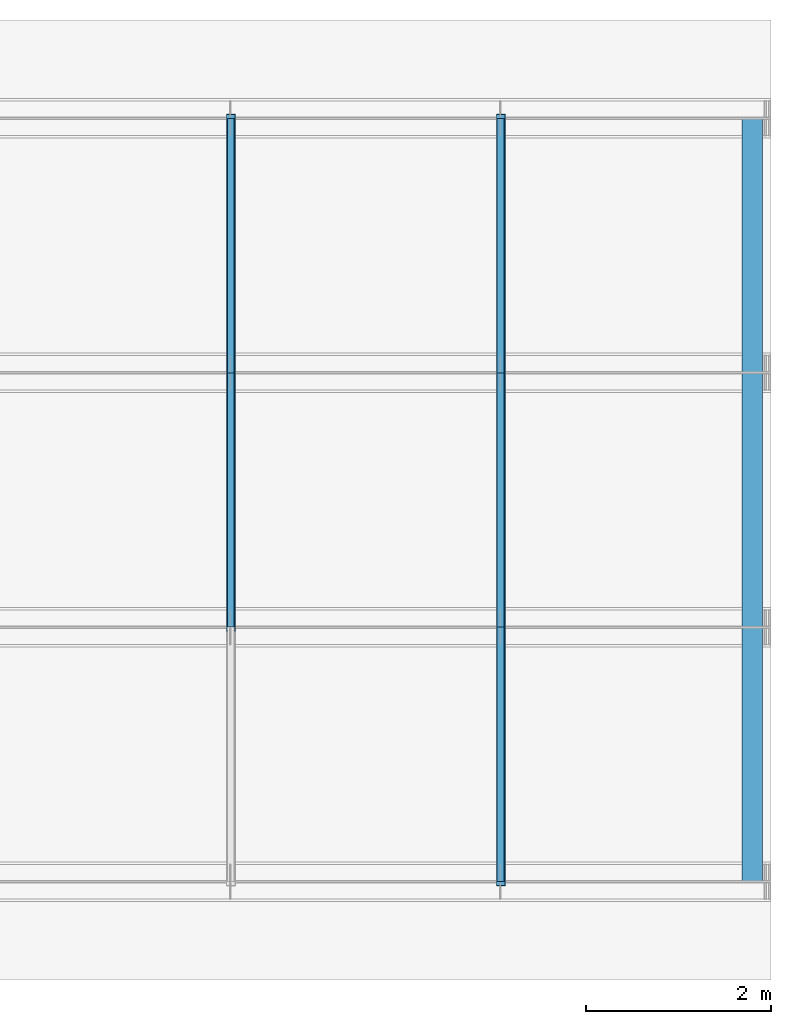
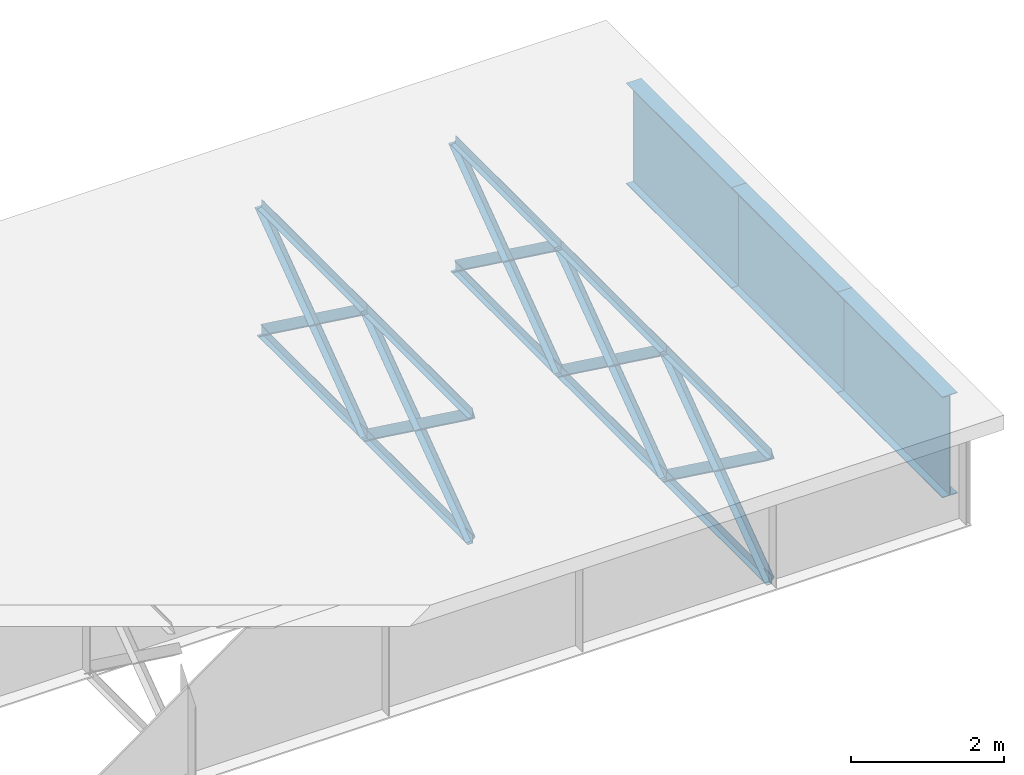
# One storey, part 2 of 13: 23 members.
"""IFC4 building model written with IfcOpenShell, lengths in metres."""

from ifc_helpers import new_model, si_unit, frame, origin, origin_with_axes, origin_2d_with_axis, place, context, subcontext, project, spatial, i_section, l_section, extrude, element, save


model = new_model("IFC4")

# Units and contexts
model_context = context("Model", 3, precision=1e-05, world=origin())
body_context = subcontext(model_context, "Body", "Model", "MODEL_VIEW")
ifc_project = project(units=[si_unit("LENGTHUNIT", "METRE"), si_unit("AREAUNIT", "SQUARE_METRE"), si_unit("VOLUMEUNIT", "CUBIC_METRE"), si_unit("PLANEANGLEUNIT", "RADIAN")], contexts=[model_context])

# Site, building, storey
site_placement = place(None, origin_with_axes())
site = spatial("IfcSite", under=ifc_project, at=site_placement, Name="Default Site")
building_placement = place(site_placement, origin_with_axes())
building = spatial("IfcBuilding", under=site, at=building_placement, Name="Bridge Structure")
storey_placement = place(building_placement, origin_with_axes())
storey = spatial("IfcBuildingStorey", under=building, at=storey_placement, Name="Superstructure")

# Members
for number, where, z_axis, x_axis, name in (
    (1, (29.166666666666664, -1.375, 1.005), (0.0, 0.8073373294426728, -0.5900901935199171), (-1.0, 0.0, 0.0), "Diagonal Brace"),
    (2, (29.166666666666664, -1.375, -1.005), (0.0, 0.8073373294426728, 0.5900901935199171), (-1.0, 0.0, 0.0), "Diagonal Brace"),
):
    element("IfcMember", number, at=place(storey_placement, frame(where, z_axis=z_axis, x_axis=x_axis)), inside=storey, Name=name, context=body_context, shape_type="SweptSolid", body=[
        extrude(l_section(Depth=0.15, Width=0.1, Thickness=0.008, at=origin_2d_with_axis()), origin_with_axes(), (0.0, 0.0, 1.0), 3.4062589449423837),
    ])
for number, where, z_axis, x_axis, name in (
    (3, (29.166666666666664, -1.375, -1.005), (0.0, 1.0, 0.0), (-1.0, 0.0, 0.0), "Bottom Chord"),
    (4, (29.166666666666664, -1.375, 1.005), (0.0, 1.0, 0.0), (-1.0, 0.0, 0.0), "Top Chord"),
):
    element("IfcMember", number, at=place(storey_placement, frame(where, z_axis=z_axis, x_axis=x_axis)), inside=storey, Name=name, context=body_context, shape_type="SweptSolid", body=[
        extrude(l_section(Depth=0.13, Width=0.08, Thickness=0.008, at=origin_2d_with_axis()), origin_with_axes(), (0.0, 0.0, 1.0), 2.75),
    ])
for number, where, z_axis, x_axis, name in (
    (5, (29.166666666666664, 1.375, 1.005), (0.0, 0.8073373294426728, -0.5900901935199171), (-1.0, 0.0, 0.0), "Diagonal Brace"),
    (6, (29.166666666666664, 1.375, -1.005), (0.0, 0.8073373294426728, 0.5900901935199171), (-1.0, 0.0, 0.0), "Diagonal Brace"),
):
    element("IfcMember", number, at=place(storey_placement, frame(where, z_axis=z_axis, x_axis=x_axis)), inside=storey, Name=name, context=body_context, shape_type="SweptSolid", body=[
        extrude(l_section(Depth=0.15, Width=0.1, Thickness=0.008, at=origin_2d_with_axis()), origin_with_axes(), (0.0, 0.0, 1.0), 3.4062589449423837),
    ])
for number, where, z_axis, x_axis, name in (
    (7, (29.166666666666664, 1.375, -1.005), (0.0, 1.0, 0.0), (-1.0, 0.0, 0.0), "Bottom Chord"),
    (8, (29.166666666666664, 1.375, 1.005), (0.0, 1.0, 0.0), (-1.0, 0.0, 0.0), "Top Chord"),
):
    element("IfcMember", number, at=place(storey_placement, frame(where, z_axis=z_axis, x_axis=x_axis)), inside=storey, Name=name, context=body_context, shape_type="SweptSolid", body=[
        extrude(l_section(Depth=0.13, Width=0.08, Thickness=0.008, at=origin_2d_with_axis()), origin_with_axes(), (0.0, 0.0, 1.0), 2.75),
    ])
for number, where, z_axis, x_axis, name in (
    (9, (32.083333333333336, -4.125, 1.005), (0.0, 0.8073373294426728, -0.5900901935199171), (-1.0, 0.0, 0.0), "Diagonal Brace"),
    (10, (32.083333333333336, -4.125, -1.005), (0.0, 0.8073373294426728, 0.5900901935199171), (-1.0, 0.0, 0.0), "Diagonal Brace"),
):
    element("IfcMember", number, at=place(storey_placement, frame(where, z_axis=z_axis, x_axis=x_axis)), inside=storey, Name=name, context=body_context, shape_type="SweptSolid", body=[
        extrude(l_section(Depth=0.15, Width=0.1, Thickness=0.008, at=origin_2d_with_axis()), origin_with_axes(), (0.0, 0.0, 1.0), 3.4062589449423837),
    ])
for number, where, z_axis, x_axis, name in (
    (11, (32.083333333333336, -4.125, -1.005), (0.0, 1.0, 0.0), (-1.0, 0.0, 0.0), "Bottom Chord"),
    (12, (32.083333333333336, -4.125, 1.005), (0.0, 1.0, 0.0), (-1.0, 0.0, 0.0), "Top Chord"),
):
    element("IfcMember", number, at=place(storey_placement, frame(where, z_axis=z_axis, x_axis=x_axis)), inside=storey, Name=name, context=body_context, shape_type="SweptSolid", body=[
        extrude(l_section(Depth=0.13, Width=0.08, Thickness=0.008, at=origin_2d_with_axis()), origin_with_axes(), (0.0, 0.0, 1.0), 2.75),
    ])
for number, where, z_axis, x_axis, name in (
    (13, (32.083333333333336, -1.375, 1.005), (0.0, 0.8073373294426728, -0.5900901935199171), (-1.0, 0.0, 0.0), "Diagonal Brace"),
    (14, (32.083333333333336, -1.375, -1.005), (0.0, 0.8073373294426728, 0.5900901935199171), (-1.0, 0.0, 0.0), "Diagonal Brace"),
):
    element("IfcMember", number, at=place(storey_placement, frame(where, z_axis=z_axis, x_axis=x_axis)), inside=storey, Name=name, context=body_context, shape_type="SweptSolid", body=[
        extrude(l_section(Depth=0.15, Width=0.1, Thickness=0.008, at=origin_2d_with_axis()), origin_with_axes(), (0.0, 0.0, 1.0), 3.4062589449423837),
    ])
for number, where, z_axis, x_axis, name in (
    (15, (32.083333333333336, -1.375, -1.005), (0.0, 1.0, 0.0), (-1.0, 0.0, 0.0), "Bottom Chord"),
    (16, (32.083333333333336, -1.375, 1.005), (0.0, 1.0, 0.0), (-1.0, 0.0, 0.0), "Top Chord"),
):
    element("IfcMember", number, at=place(storey_placement, frame(where, z_axis=z_axis, x_axis=x_axis)), inside=storey, Name=name, context=body_context, shape_type="SweptSolid", body=[
        extrude(l_section(Depth=0.13, Width=0.08, Thickness=0.008, at=origin_2d_with_axis()), origin_with_axes(), (0.0, 0.0, 1.0), 2.75),
    ])
for number, where, z_axis, x_axis, name in (
    (17, (32.083333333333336, 1.375, 1.005), (0.0, 0.8073373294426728, -0.5900901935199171), (-1.0, 0.0, 0.0), "Diagonal Brace"),
    (18, (32.083333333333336, 1.375, -1.005), (0.0, 0.8073373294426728, 0.5900901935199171), (-1.0, 0.0, 0.0), "Diagonal Brace"),
):
    element("IfcMember", number, at=place(storey_placement, frame(where, z_axis=z_axis, x_axis=x_axis)), inside=storey, Name=name, context=body_context, shape_type="SweptSolid", body=[
        extrude(l_section(Depth=0.15, Width=0.1, Thickness=0.008, at=origin_2d_with_axis()), origin_with_axes(), (0.0, 0.0, 1.0), 3.4062589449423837),
    ])
for number, where, z_axis, x_axis, name in (
    (19, (32.083333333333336, 1.375, -1.005), (0.0, 1.0, 0.0), (-1.0, 0.0, 0.0), "Bottom Chord"),
    (20, (32.083333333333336, 1.375, 1.005), (0.0, 1.0, 0.0), (-1.0, 0.0, 0.0), "Top Chord"),
):
    element("IfcMember", number, at=place(storey_placement, frame(where, z_axis=z_axis, x_axis=x_axis)), inside=storey, Name=name, context=body_context, shape_type="SweptSolid", body=[
        extrude(l_section(Depth=0.13, Width=0.08, Thickness=0.008, at=origin_2d_with_axis()), origin_with_axes(), (0.0, 0.0, 1.0), 2.75),
    ])
for number, where, z_axis, x_axis, name in (
    (21, (34.800000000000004, -4.125, 0.2009999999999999), (0.0, 1.0, 0.0), (-1.0, 0.0, 0.0), "End Diaphragm"),
    (22, (34.800000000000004, -1.375, 0.2009999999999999), (0.0, 1.0, 0.0), (-1.0, 0.0, 0.0), "End Diaphragm"),
    (23, (34.800000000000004, 1.375, 0.2009999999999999), (0.0, 1.0, 0.0), (-1.0, 0.0, 0.0), "End Diaphragm"),
):
    element("IfcMember", number, at=place(storey_placement, frame(where, z_axis=z_axis, x_axis=x_axis)), inside=storey, Name=name, context=body_context, shape_type="SweptSolid", body=[
        extrude(i_section(OverallWidth=0.225, OverallDepth=1.608, WebThickness=0.018000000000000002, FlangeThickness=0.012, at=origin_2d_with_axis()), origin_with_axes(), (0.0, 0.0, 1.0), 2.75),
    ])

save(model, "model.ifc")
